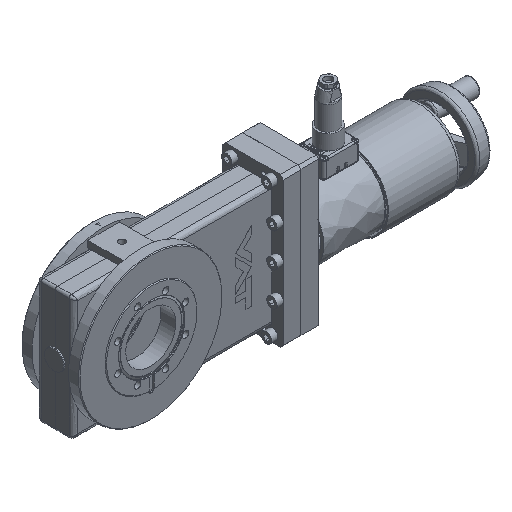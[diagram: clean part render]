
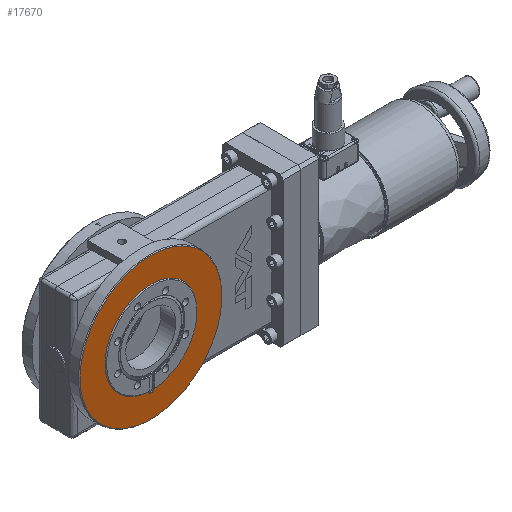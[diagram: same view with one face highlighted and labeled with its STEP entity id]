
A CAD part, isometric view. The second image highlights one B-rep face of the part: STEP entity #17670.
In plain terms, the highlighted free-form (B-spline) face has degree [1, 1] with [2, 2] control points.
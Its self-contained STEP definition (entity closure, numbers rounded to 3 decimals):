
#17366=CARTESIAN_POINT('V73',(-57.75,-1.,
   0.0));
#17367=VERTEX_POINT('V73',#17366);
#17373=CARTESIAN_POINT('V72',(57.672,-1.,
   -3.));
#17374=VERTEX_POINT('V72',#17373);
#17375=CARTESIAN_POINT('E112',(57.672,-1.,
   -3.));
#17376=CARTESIAN_POINT('E112',(56.043,-1.,
   -34.328));
#17377=CARTESIAN_POINT('E112',(28.875,-1.,
   -50.013));
#17378=CARTESIAN_POINT('E112',(-57.75,
   -1.,-100.026));
#17379=CARTESIAN_POINT('E112',(-57.75,
   -1.,0.0));
#17387=(BOUNDED_CURVE()B_SPLINE_CURVE(2,(#17375,#17376,#17377,
   #17378,#17379),.CIRCULAR_ARC.,.F.,.U.)B_SPLINE_CURVE_WITH_KNOTS(
   (3,2,3),(213.506,280.467,
   420.7),.UNSPECIFIED.)CURVE()
   GEOMETRIC_REPRESENTATION_ITEM()RATIONAL_B_SPLINE_CURVE((
   0.751,0.761,1.0,0.5,1.0))
   REPRESENTATION_ITEM('E112'));
#17388=EDGE_CURVE('E112',#17374,#17367,#17387,.T.);
#17547=CARTESIAN_POINT('V75',(57.672,-1.,
   3.));
#17548=VERTEX_POINT('V75',#17547);
#17563=CARTESIAN_POINT('E118',(-57.75,
   -1.,0.0));
#17564=CARTESIAN_POINT('E118',(-57.75,
   -1.,100.026));
#17565=CARTESIAN_POINT('E118',(28.875,-1.,
   50.013));
#17566=CARTESIAN_POINT('E118',(56.043,-1.,
   34.328));
#17567=CARTESIAN_POINT('E118',(57.672,-1.,
   3.));
#17575=(BOUNDED_CURVE()B_SPLINE_CURVE(2,(#17563,#17564,#17565,
   #17566,#17567),.CIRCULAR_ARC.,.F.,.U.)B_SPLINE_CURVE_WITH_KNOTS(
   (3,2,3),(0.0,140.233,207.194),
   .UNSPECIFIED.)CURVE()GEOMETRIC_REPRESENTATION_ITEM()
   RATIONAL_B_SPLINE_CURVE((1.0,0.5,1.0,
   0.761,0.751))REPRESENTATION_ITEM('E118')
   );
#17576=EDGE_CURVE('E118',#17367,#17548,#17575,.T.);
#17621=CARTESIAN_POINT('E119',(57.672,-1.,
   -3.));
#17622=CARTESIAN_POINT('E119',(62.775,-1.,
   -2.92));
#17623=CARTESIAN_POINT('E119',(60.223,-1.,
   1.5));
#17624=CARTESIAN_POINT('E119',(59.373,-1.,
   2.973));
#17625=CARTESIAN_POINT('E119',(57.672,-1.,
   3.));
#17633=(BOUNDED_CURVE()B_SPLINE_CURVE(2,(#17621,#17622,#17623,
   #17624,#17625),.CIRCULAR_ARC.,.F.,.U.)B_SPLINE_CURVE_WITH_KNOTS(
   (3,2,3),(0.005,0.665,0.994),
   .UNSPECIFIED.)CURVE()GEOMETRIC_REPRESENTATION_ITEM()
   RATIONAL_B_SPLINE_CURVE((0.991,0.505,
   1.0,0.753,0.75))REPRESENTATION_ITEM(
   'E119'));
#17634=EDGE_CURVE('E119',#17374,#17548,#17633,.T.);
#17639=CARTESIAN_POINT('F56',(-98.01,-1.,
   -98.01));
#17640=CARTESIAN_POINT('F56',(-98.01,-1.,
   98.01));
#17641=CARTESIAN_POINT('F56',(98.01,-1.,
   -98.01));
#17642=CARTESIAN_POINT('F56',(98.01,-1.,
   98.01));
#17643=QUASI_UNIFORM_SURFACE('F56',1,1,((#17639,#17641),(#17640,
   #17642)),.PLANE_SURF.,.F.,.F.,.U.);
#17644=CARTESIAN_POINT('V55',(-89.1,-1.,
   0.0));
#17645=VERTEX_POINT('V55',#17644);
#17646=CARTESIAN_POINT('E90',(-89.1,-1.,
   0.0));
#17647=CARTESIAN_POINT('E90',(-89.1,-1.,
   154.326));
#17648=CARTESIAN_POINT('E90',(44.55,-1.,
   77.163));
#17649=CARTESIAN_POINT('E90',(178.2,-1.,
   0.));
#17650=CARTESIAN_POINT('E90',(44.55,-1.,
   -77.163));
#17651=CARTESIAN_POINT('E90',(-89.1,-1.,
   -154.326));
#17652=CARTESIAN_POINT('E90',(-89.1,-1.,
   0.0));
#17660=(BOUNDED_CURVE()B_SPLINE_CURVE(2,(#17646,#17647,#17648,
   #17649,#17650,#17651,#17652),.CIRCULAR_ARC.,.T.,.U.)
   B_SPLINE_CURVE_WITH_KNOTS((3,2,2,3),(0.0,0.333,
   0.667,1.0),.UNSPECIFIED.)CURVE()
   GEOMETRIC_REPRESENTATION_ITEM()RATIONAL_B_SPLINE_CURVE((1.0,
   0.5,1.0,0.5,1.0,0.5,1.0)
   )REPRESENTATION_ITEM('E90'));
#17661=EDGE_CURVE('E90',#17645,#17645,#17660,.T.);
#17662=ORIENTED_EDGE('E90',*,*,#17661,.F.);
#17663=EDGE_LOOP('F56',(#17662));
#17664=FACE_OUTER_BOUND('F56',#17663,.F.);
#17665=ORIENTED_EDGE('F58',*,*,#17634,.F.);
#17666=ORIENTED_EDGE('E112',*,*,#17388,.T.);
#17667=ORIENTED_EDGE('E118',*,*,#17576,.T.);
#17668=EDGE_LOOP('F56',(#17665,#17666,#17667));
#17669=FACE_BOUND('F56',#17668,.F.);
#17670=ADVANCED_FACE('F56',(#17664,#17669),#17643,.T.);
